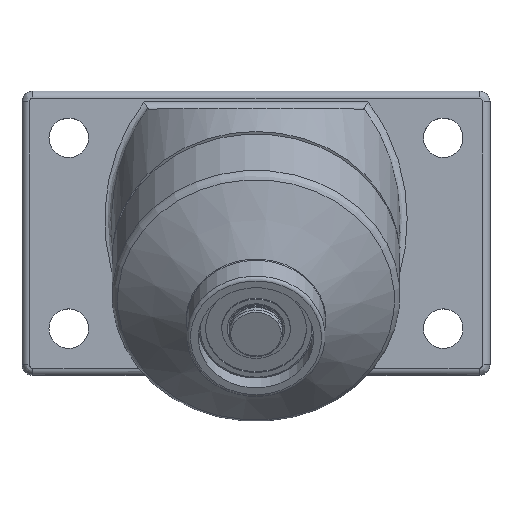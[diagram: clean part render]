
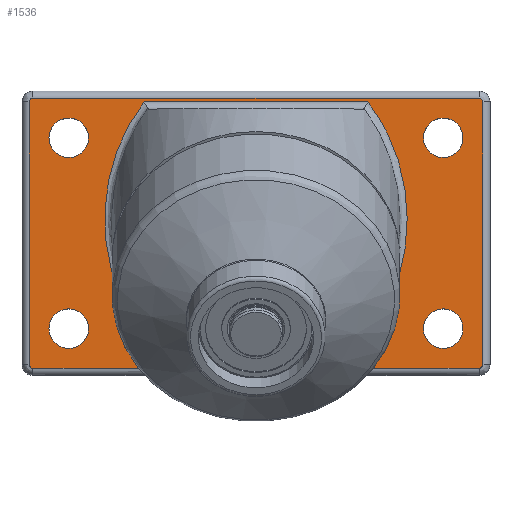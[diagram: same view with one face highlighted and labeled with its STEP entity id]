
A CAD part, top view. The second image highlights one B-rep face of the part: STEP entity #1536.
In plain terms, the highlighted planar face has unit normal (0, 0, 1).
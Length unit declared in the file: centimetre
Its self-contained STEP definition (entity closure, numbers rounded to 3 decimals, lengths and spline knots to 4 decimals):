
#20=ELLIPSE('',#1695,4.8497,4.2);
#21=ELLIPSE('',#1697,4.8497,4.2);
#23=ELLIPSE('',#1701,4.8497,4.2);
#26=ELLIPSE('',#1709,4.8497,4.2);
#67=LINE('',#2610,#96);
#68=LINE('',#2991,#97);
#69=LINE('',#2995,#98);
#70=LINE('',#2999,#99);
#71=LINE('',#3003,#100);
#72=LINE('',#3006,#101);
#96=VECTOR('',#2034,6.2035);
#97=VECTOR('',#2071,3.9985);
#98=VECTOR('',#2074,7.3);
#99=VECTOR('',#2077,12.4);
#100=VECTOR('',#2080,7.3);
#101=VECTOR('',#2083,3.9985);
#196=PLANE('',#1714);
#258=FACE_BOUND('',#515,.T.);
#259=FACE_BOUND('',#516,.T.);
#260=FACE_BOUND('',#517,.T.);
#261=FACE_BOUND('',#518,.T.);
#355=FACE_OUTER_BOUND('',#514,.T.);
#514=EDGE_LOOP('',(#1179,#1180,#1181,#1182,#1183,#1184,#1185,#1186,#1187,
#1188,#1189,#1190,#1191,#1192));
#515=EDGE_LOOP('',(#1193));
#516=EDGE_LOOP('',(#1194));
#517=EDGE_LOOP('',(#1195));
#518=EDGE_LOOP('',(#1196));
#656=CIRCLE('',#1715,0.1);
#657=CIRCLE('',#1716,0.1);
#658=CIRCLE('',#1717,0.1);
#659=CIRCLE('',#1718,0.1);
#660=CIRCLE('',#1719,0.55);
#661=CIRCLE('',#1720,0.55);
#662=CIRCLE('',#1721,0.55);
#663=CIRCLE('',#1722,0.55);
#762=VERTEX_POINT('',#2581);
#763=VERTEX_POINT('',#2583);
#766=VERTEX_POINT('',#2609);
#768=VERTEX_POINT('',#2680);
#771=VERTEX_POINT('',#2714);
#781=VERTEX_POINT('',#2902);
#784=VERTEX_POINT('',#2990);
#785=VERTEX_POINT('',#2992);
#786=VERTEX_POINT('',#2994);
#787=VERTEX_POINT('',#2996);
#788=VERTEX_POINT('',#2998);
#789=VERTEX_POINT('',#3000);
#790=VERTEX_POINT('',#3002);
#791=VERTEX_POINT('',#3004);
#792=VERTEX_POINT('',#3007);
#793=VERTEX_POINT('',#3009);
#794=VERTEX_POINT('',#3011);
#795=VERTEX_POINT('',#3013);
#902=EDGE_CURVE('',#762,#763,#20,.T.);
#906=EDGE_CURVE('',#763,#766,#67,.T.);
#909=EDGE_CURVE('',#766,#768,#21,.T.);
#914=EDGE_CURVE('',#771,#762,#23,.T.);
#931=EDGE_CURVE('',#768,#781,#26,.T.);
#936=EDGE_CURVE('',#784,#771,#68,.T.);
#937=EDGE_CURVE('',#785,#784,#656,.T.);
#938=EDGE_CURVE('',#786,#785,#69,.T.);
#939=EDGE_CURVE('',#787,#786,#657,.T.);
#940=EDGE_CURVE('',#788,#787,#70,.T.);
#941=EDGE_CURVE('',#789,#788,#658,.T.);
#942=EDGE_CURVE('',#790,#789,#71,.T.);
#943=EDGE_CURVE('',#791,#790,#659,.T.);
#944=EDGE_CURVE('',#781,#791,#72,.T.);
#945=EDGE_CURVE('',#792,#792,#660,.T.);
#946=EDGE_CURVE('',#793,#793,#661,.T.);
#947=EDGE_CURVE('',#794,#794,#662,.T.);
#948=EDGE_CURVE('',#795,#795,#663,.T.);
#1179=ORIENTED_EDGE('',*,*,#931,.F.);
#1180=ORIENTED_EDGE('',*,*,#909,.F.);
#1181=ORIENTED_EDGE('',*,*,#906,.F.);
#1182=ORIENTED_EDGE('',*,*,#902,.F.);
#1183=ORIENTED_EDGE('',*,*,#914,.F.);
#1184=ORIENTED_EDGE('',*,*,#936,.F.);
#1185=ORIENTED_EDGE('',*,*,#937,.F.);
#1186=ORIENTED_EDGE('',*,*,#938,.F.);
#1187=ORIENTED_EDGE('',*,*,#939,.F.);
#1188=ORIENTED_EDGE('',*,*,#940,.F.);
#1189=ORIENTED_EDGE('',*,*,#941,.F.);
#1190=ORIENTED_EDGE('',*,*,#942,.F.);
#1191=ORIENTED_EDGE('',*,*,#943,.F.);
#1192=ORIENTED_EDGE('',*,*,#944,.F.);
#1193=ORIENTED_EDGE('',*,*,#945,.T.);
#1194=ORIENTED_EDGE('',*,*,#946,.T.);
#1195=ORIENTED_EDGE('',*,*,#947,.T.);
#1196=ORIENTED_EDGE('',*,*,#948,.T.);
#1536=ADVANCED_FACE('',(#355,#258,#259,#260,#261),#196,.T.);
#1695=AXIS2_PLACEMENT_3D('',#2584,#2029,#2030);
#1697=AXIS2_PLACEMENT_3D('',#2681,#2035,#2036);
#1701=AXIS2_PLACEMENT_3D('',#2716,#2043,#2044);
#1709=AXIS2_PLACEMENT_3D('',#2945,#2059,#2060);
#1714=AXIS2_PLACEMENT_3D('',#2989,#2069,#2070);
#1715=AXIS2_PLACEMENT_3D('',#2993,#2072,#2073);
#1716=AXIS2_PLACEMENT_3D('',#2997,#2075,#2076);
#1717=AXIS2_PLACEMENT_3D('',#3001,#2078,#2079);
#1718=AXIS2_PLACEMENT_3D('',#3005,#2081,#2082);
#1719=AXIS2_PLACEMENT_3D('',#3008,#2084,#2085);
#1720=AXIS2_PLACEMENT_3D('',#3010,#2086,#2087);
#1721=AXIS2_PLACEMENT_3D('',#3012,#2088,#2089);
#1722=AXIS2_PLACEMENT_3D('',#3014,#2090,#2091);
#2029=DIRECTION('center_axis',(0.,0.,
1.));
#2030=DIRECTION('ref_axis',(0.,-1.,0.));
#2034=DIRECTION('',(-1.,0.,0.));
#2035=DIRECTION('center_axis',(0.,0.,
1.));
#2036=DIRECTION('ref_axis',(0.,-1.,0.));
#2043=DIRECTION('center_axis',(0.,0.,
1.));
#2044=DIRECTION('ref_axis',(0.,-1.,0.));
#2059=DIRECTION('center_axis',(0.,0.,
1.));
#2060=DIRECTION('ref_axis',(0.,-1.,0.));
#2069=DIRECTION('center_axis',(0.,0.,
1.));
#2070=DIRECTION('ref_axis',(-1.,0.,0.));
#2071=DIRECTION('',(-1.,0.,0.));
#2072=DIRECTION('center_axis',(0.,0.,
-1.));
#2073=DIRECTION('ref_axis',(0.707,-0.707,0.));
#2074=DIRECTION('',(0.,-1.,0.));
#2075=DIRECTION('center_axis',(0.,0.,
-1.));
#2076=DIRECTION('ref_axis',(0.707,0.707,0.));
#2077=DIRECTION('',(1.,0.,0.));
#2078=DIRECTION('center_axis',(0.,0.,
-1.));
#2079=DIRECTION('ref_axis',(-0.707,0.707,0.));
#2080=DIRECTION('',(0.,1.,0.));
#2081=DIRECTION('center_axis',(0.,0.,
-1.));
#2082=DIRECTION('ref_axis',(-0.707,-0.707,0.));
#2083=DIRECTION('',(-1.,0.,0.));
#2084=DIRECTION('center_axis',(0.,0.,
-1.));
#2085=DIRECTION('ref_axis',(1.,0.,0.));
#2086=DIRECTION('center_axis',(0.,0.,
-1.));
#2087=DIRECTION('ref_axis',(1.,0.,0.));
#2088=DIRECTION('center_axis',(0.,0.,
-1.));
#2089=DIRECTION('ref_axis',(1.,0.,0.));
#2090=DIRECTION('center_axis',(0.,0.,
-1.));
#2091=DIRECTION('ref_axis',(1.,0.,0.));
#2581=CARTESIAN_POINT('',(2.2426,-2.6254,1.));
#2583=CARTESIAN_POINT('',(3.1018,4.745,1.));
#2584=CARTESIAN_POINT('Origin',(0.,1.4751,
1.));
#2609=CARTESIAN_POINT('',(-3.1018,4.745,1.));
#2610=CARTESIAN_POINT('',(-1.9739,4.745,1.));
#2680=CARTESIAN_POINT('',(-2.2426,-2.6254,1.));
#2681=CARTESIAN_POINT('Origin',(0.,1.4751,
1.));
#2714=CARTESIAN_POINT('',(2.2015,-2.655,1.));
#2716=CARTESIAN_POINT('Origin',(0.,1.4751,
1.));
#2902=CARTESIAN_POINT('',(-2.2015,-2.655,1.));
#2945=CARTESIAN_POINT('Origin',(0.,1.4751,
1.));
#2989=CARTESIAN_POINT('Origin',(0.,1.095,1.));
#2990=CARTESIAN_POINT('',(6.2,-2.655,1.));
#2991=CARTESIAN_POINT('',(-3.25,-2.655,1.));
#2992=CARTESIAN_POINT('',(6.3,-2.555,1.));
#2993=CARTESIAN_POINT('Origin',(6.2,-2.555,1.));
#2994=CARTESIAN_POINT('',(6.3,4.745,1.));
#2995=CARTESIAN_POINT('',(6.3,-0.88,1.));
#2996=CARTESIAN_POINT('',(6.2,4.845,1.));
#2997=CARTESIAN_POINT('Origin',(6.2,4.745,1.));
#2998=CARTESIAN_POINT('',(-6.2,4.845,1.));
#2999=CARTESIAN_POINT('',(3.25,4.845,1.));
#3000=CARTESIAN_POINT('',(-6.3,4.745,1.));
#3001=CARTESIAN_POINT('Origin',(-6.2,4.745,1.));
#3002=CARTESIAN_POINT('',(-6.3,-2.555,1.));
#3003=CARTESIAN_POINT('',(-6.3,3.07,1.));
#3004=CARTESIAN_POINT('',(-6.2,-2.655,1.));
#3005=CARTESIAN_POINT('Origin',(-6.2,-2.555,1.));
#3006=CARTESIAN_POINT('',(-3.25,-2.655,1.));
#3007=CARTESIAN_POINT('',(5.75,-1.555,1.));
#3008=CARTESIAN_POINT('Origin',(5.2,-1.555,1.));
#3009=CARTESIAN_POINT('',(5.75,3.745,1.));
#3010=CARTESIAN_POINT('Origin',(5.2,3.745,1.));
#3011=CARTESIAN_POINT('',(-4.65,-1.555,1.));
#3012=CARTESIAN_POINT('Origin',(-5.2,-1.555,1.));
#3013=CARTESIAN_POINT('',(-4.65,3.745,1.));
#3014=CARTESIAN_POINT('Origin',(-5.2,3.745,1.));
